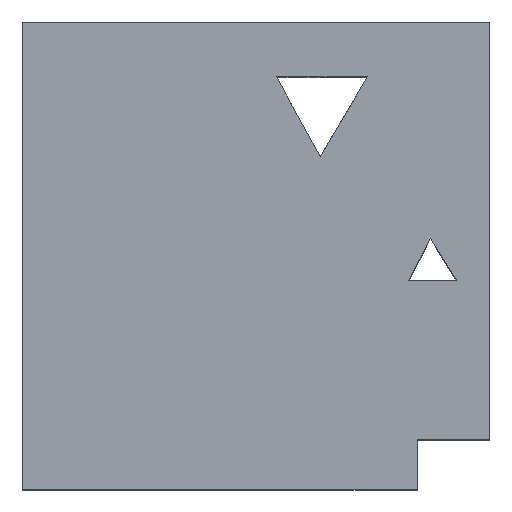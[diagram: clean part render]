
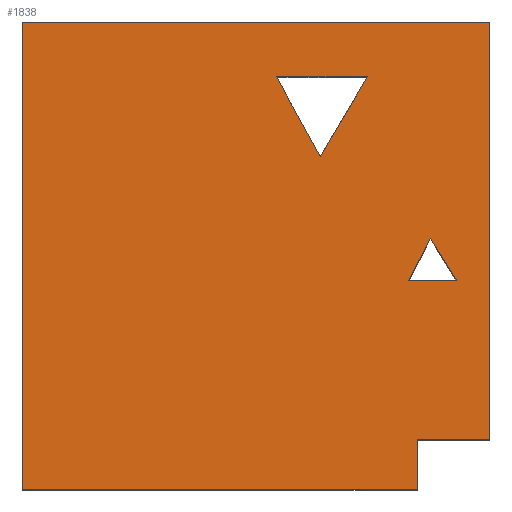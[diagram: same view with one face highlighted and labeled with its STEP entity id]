
A CAD part, top view. The second image highlights one B-rep face of the part: STEP entity #1838.
In plain terms, the highlighted planar face has unit normal (0, 0, 1).
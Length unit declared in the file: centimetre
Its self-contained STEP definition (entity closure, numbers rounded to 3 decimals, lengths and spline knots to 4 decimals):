
#19 = EDGE_LOOP ( 'NONE', ( #2393, #807, #1783 ) ) ;
#57 = VECTOR ( 'NONE', #1637, 100. ) ;
#60 = EDGE_CURVE ( 'NONE', #1431, #551, #1613, .T. ) ;
#100 = CARTESIAN_POINT ( 'NONE',  ( 637.4758, 711.9388, 1000. ) ) ;
#140 = LINE ( 'NONE', #1837, #2213 ) ;
#270 = DIRECTION ( 'NONE',  ( 0.481, -0.877, 0. ) ) ;
#273 = VERTEX_POINT ( 'NONE', #1683 ) ;
#303 = LINE ( 'NONE', #1056, #1499 ) ;
#309 = CARTESIAN_POINT ( 'NONE',  ( 0., 1000., 1000. ) ) ;
#365 = ORIENTED_EDGE ( 'NONE', *, *, #2051, .T. ) ;
#447 = CARTESIAN_POINT ( 'NONE',  ( 0., 0., 1000. ) ) ;
#490 = CARTESIAN_POINT ( 'NONE',  ( 738.5222, 882.6636, 1000. ) ) ;
#494 = ORIENTED_EDGE ( 'NONE', *, *, #566, .T. ) ;
#523 = CARTESIAN_POINT ( 'NONE',  ( 844.8571, 0., 1000. ) ) ;
#527 = EDGE_CURVE ( 'NONE', #1998, #794, #2071, .T. ) ;
#529 = VECTOR ( 'NONE', #2061, 100. ) ;
#551 = VERTEX_POINT ( 'NONE', #309 ) ;
#566 = EDGE_CURVE ( 'NONE', #273, #1431, #140, .T. ) ;
#634 = CARTESIAN_POINT ( 'NONE',  ( 543.8645, 882.6636, 1000. ) ) ;
#651 = EDGE_LOOP ( 'NONE', ( #891, #778, #918 ) ) ;
#671 = LINE ( 'NONE', #879, #1572 ) ;
#681 = DIRECTION ( 'NONE',  ( 0., -1., 0. ) ) ;
#693 = CARTESIAN_POINT ( 'NONE',  ( 873.2721, 537.6378, 1000. ) ) ;
#730 = VECTOR ( 'NONE', #1488, 100. ) ;
#735 = CARTESIAN_POINT ( 'NONE',  ( 0., 0., 1000. ) ) ;
#738 = VERTEX_POINT ( 'NONE', #490 ) ;
#751 = EDGE_CURVE ( 'NONE', #1540, #738, #671, .T. ) ;
#778 = ORIENTED_EDGE ( 'NONE', *, *, #751, .F. ) ;
#794 = VERTEX_POINT ( 'NONE', #1462 ) ;
#807 = ORIENTED_EDGE ( 'NONE', *, *, #1060, .F. ) ;
#826 = PLANE ( 'NONE',  #1577 ) ;
#879 = CARTESIAN_POINT ( 'NONE',  ( 637.4758, 711.9388, 1000. ) ) ;
#881 = VECTOR ( 'NONE', #681, 100. ) ;
#885 = VECTOR ( 'NONE', #897, 100. ) ;
#889 = EDGE_CURVE ( 'NONE', #551, #1998, #2398, .T. ) ;
#891 = ORIENTED_EDGE ( 'NONE', *, *, #1057, .F. ) ;
#897 = DIRECTION ( 'NONE',  ( -0.452, -0.892, 0. ) ) ;
#918 = ORIENTED_EDGE ( 'NONE', *, *, #1671, .F. ) ;
#957 = VERTEX_POINT ( 'NONE', #2254 ) ;
#970 = ORIENTED_EDGE ( 'NONE', *, *, #60, .T. ) ;
#995 = VERTEX_POINT ( 'NONE', #1182 ) ;
#1026 = DIRECTION ( 'NONE',  ( 0., 0., 1. ) ) ;
#1056 = CARTESIAN_POINT ( 'NONE',  ( 844.8571, 106.1247, 1000. ) ) ;
#1057 = EDGE_CURVE ( 'NONE', #738, #1395, #1128, .T. ) ;
#1060 = EDGE_CURVE ( 'NONE', #2367, #957, #1371, .T. ) ;
#1071 = DIRECTION ( 'NONE',  ( 0.509, 0.861, 0. ) ) ;
#1107 = CARTESIAN_POINT ( 'NONE',  ( 0., 0., 1000. ) ) ;
#1128 = LINE ( 'NONE', #1901, #1489 ) ;
#1182 = CARTESIAN_POINT ( 'NONE',  ( 844.8571, 106.1247, 1000. ) ) ;
#1230 = CARTESIAN_POINT ( 'NONE',  ( 0., 1000., 1000. ) ) ;
#1247 = FACE_BOUND ( 'NONE', #651, .T. ) ;
#1298 = LINE ( 'NONE', #693, #885 ) ;
#1369 = VECTOR ( 'NONE', #2297, 100. ) ;
#1371 = LINE ( 'NONE', #1703, #1369 ) ;
#1386 = EDGE_CURVE ( 'NONE', #2227, #2367, #1298, .T. ) ;
#1395 = VERTEX_POINT ( 'NONE', #2052 ) ;
#1431 = VERTEX_POINT ( 'NONE', #1875 ) ;
#1443 = ORIENTED_EDGE ( 'NONE', *, *, #2361, .T. ) ;
#1462 = CARTESIAN_POINT ( 'NONE',  ( 844.8571, 0., 1000. ) ) ;
#1488 = DIRECTION ( 'NONE',  ( 0., 1., 0. ) ) ;
#1489 = VECTOR ( 'NONE', #1512, 100. ) ;
#1499 = VECTOR ( 'NONE', #2360, 100. ) ;
#1512 = DIRECTION ( 'NONE',  ( -1., 0., 0. ) ) ;
#1540 = VERTEX_POINT ( 'NONE', #100 ) ;
#1572 = VECTOR ( 'NONE', #1071, 100. ) ;
#1577 = AXIS2_PLACEMENT_3D ( 'NONE', #447, #1026, #2359 ) ;
#1613 = LINE ( 'NONE', #1230, #1615 ) ;
#1615 = VECTOR ( 'NONE', #1628, 100. ) ;
#1626 = LINE ( 'NONE', #2378, #57 ) ;
#1628 = DIRECTION ( 'NONE',  ( -1., 0., 0. ) ) ;
#1637 = DIRECTION ( 'NONE',  ( -0.522, 0.853, 0. ) ) ;
#1671 = EDGE_CURVE ( 'NONE', #1395, #1540, #2353, .T. ) ;
#1679 = CARTESIAN_POINT ( 'NONE',  ( 0., 1000., 1000. ) ) ;
#1683 = CARTESIAN_POINT ( 'NONE',  ( 1000., 106.1247, 1000. ) ) ;
#1698 = EDGE_CURVE ( 'NONE', #957, #2227, #1626, .T. ) ;
#1703 = CARTESIAN_POINT ( 'NONE',  ( 826.6621, 445.7094, 1000. ) ) ;
#1783 = ORIENTED_EDGE ( 'NONE', *, *, #1386, .F. ) ;
#1829 = FACE_OUTER_BOUND ( 'NONE', #1923, .T. ) ;
#1837 = CARTESIAN_POINT ( 'NONE',  ( 1000., 1000., 1000. ) ) ;
#1838 = ADVANCED_FACE ( 'NONE', ( #2168, #1829, #1247 ), #826, .T. ) ;
#1875 = CARTESIAN_POINT ( 'NONE',  ( 1000., 1000., 1000. ) ) ;
#1901 = CARTESIAN_POINT ( 'NONE',  ( 738.5222, 882.6636, 1000. ) ) ;
#1911 = LINE ( 'NONE', #523, #730 ) ;
#1923 = EDGE_LOOP ( 'NONE', ( #365, #1443, #494, #970, #1948, #2315 ) ) ;
#1948 = ORIENTED_EDGE ( 'NONE', *, *, #889, .T. ) ;
#1998 = VERTEX_POINT ( 'NONE', #1107 ) ;
#2051 = EDGE_CURVE ( 'NONE', #794, #995, #1911, .T. ) ;
#2052 = CARTESIAN_POINT ( 'NONE',  ( 543.8645, 882.6636, 1000. ) ) ;
#2061 = DIRECTION ( 'NONE',  ( 1., 0., 0. ) ) ;
#2071 = LINE ( 'NONE', #735, #529 ) ;
#2127 = CARTESIAN_POINT ( 'NONE',  ( 873.2721, 537.6378, 1000. ) ) ;
#2168 = FACE_BOUND ( 'NONE', #19, .T. ) ;
#2213 = VECTOR ( 'NONE', #2433, 100. ) ;
#2227 = VERTEX_POINT ( 'NONE', #2127 ) ;
#2254 = CARTESIAN_POINT ( 'NONE',  ( 929.5794, 445.7094, 1000. ) ) ;
#2294 = VECTOR ( 'NONE', #270, 100. ) ;
#2297 = DIRECTION ( 'NONE',  ( 1., 0., 0. ) ) ;
#2315 = ORIENTED_EDGE ( 'NONE', *, *, #527, .T. ) ;
#2353 = LINE ( 'NONE', #634, #2294 ) ;
#2359 = DIRECTION ( 'NONE',  ( 1., 0., 0. ) ) ;
#2360 = DIRECTION ( 'NONE',  ( 1., 0., 0. ) ) ;
#2361 = EDGE_CURVE ( 'NONE', #995, #273, #303, .T. ) ;
#2367 = VERTEX_POINT ( 'NONE', #2375 ) ;
#2375 = CARTESIAN_POINT ( 'NONE',  ( 826.6621, 445.7094, 1000. ) ) ;
#2378 = CARTESIAN_POINT ( 'NONE',  ( 929.5794, 445.7094, 1000. ) ) ;
#2393 = ORIENTED_EDGE ( 'NONE', *, *, #1698, .F. ) ;
#2398 = LINE ( 'NONE', #1679, #881 ) ;
#2433 = DIRECTION ( 'NONE',  ( 0., 1., 0. ) ) ;
